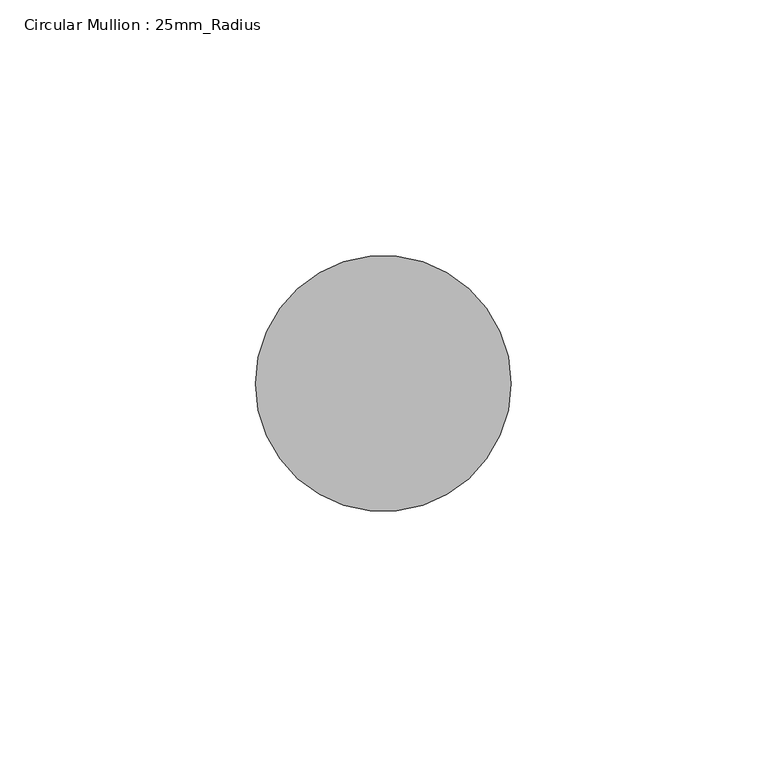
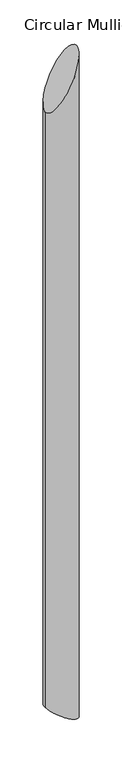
"""IFC4 building model written with IfcOpenShell, lengths in millimetres: member geometry, Circular Mullion : 25mm_Radius."""

from ifc_helpers import new_model, si_unit, frame, origin, place, context, project, spatial, ellipse_curve, source, transform, mapped, element, save
from ifc_brep_helpers import plane_surface, cylinder_surface, advanced_brep


def circular_mullion_25mm_radius_84070b58(model_context):
    return source(origin(), model_context, "Body", "AdvancedBrep", [
        advanced_brep(
        [(-50.0, 0.0, -94.9079731), (0.0, 0.0, 0.0), (0.0, 0.0, -1120.0), (-50.0, 0.0, -1094.3675147)],
        [
            (0, 1, ellipse_curve(frame((-25.0, 0.0, -47.4539865), z_axis=(0.8847320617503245, 0.0, -0.466099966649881), x_axis=(0.46609996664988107, 0.0, 0.8847320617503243)), 53.6365625, 25.0)),
            (1, 2),
            (2, 3, ellipse_curve(frame((-25.0, 0.0, -1107.1837573), z_axis=(0.45619629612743, 0.0, 0.8898791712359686), x_axis=(-0.8898791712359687, 0.0, 0.4561962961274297)), 28.0937017, 25.0)),
            (3, 0),
            (1, 0, ellipse_curve(frame((-25.0, 0.0, -47.4539865), z_axis=(0.8847320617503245, 0.0, -0.466099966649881), x_axis=(0.46609996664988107, 0.0, 0.8847320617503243)), 53.6365625, 25.0)),
            (3, 2, ellipse_curve(frame((-25.0, 0.0, -1107.1837573), z_axis=(0.45619629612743, 0.0, 0.8898791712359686), x_axis=(-0.8898791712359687, 0.0, 0.4561962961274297)), 28.0937017, 25.0)),
        ],
        [
            cylinder_surface(frame((-25.0, 0.0, 0.0), z_axis=(0.0, 0.0, 1.0), x_axis=(1.0, 0.0, 0.0)), 25.0),
            plane_surface(frame((0.0, -304.8, 0.0), z_axis=(-0.8847320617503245, 0.0, 0.466099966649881), x_axis=(-0.466099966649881, 0.0, -0.8847320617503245))),
            plane_surface(frame((0.0, -304.8, -1120.0), z_axis=(-0.45619629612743, 0.0, -0.8898791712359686), x_axis=(-0.8898791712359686, 0.0, 0.45619629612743))),
        ],
        [
            (0, [[1, 2, 3, 4]]),
            (0, [[5, -4, 6, -2]]),
            (1, [[-1, -5]]),
            (2, [[-6, -3]]),
        ],
    ),
    ])


if __name__ == "__main__":
    model = new_model("IFC4")
    model_context = context("Model", 3, world=origin())
    ifc_project = project(units=[si_unit("LENGTHUNIT", "METRE", prefix="MILLI")], contexts=[model_context])
    site = spatial("IfcSite", under=ifc_project)
    building = spatial("IfcBuilding", under=site)
    placement = place(None, origin())
    circular_mullion_25mm_radius_shape = circular_mullion_25mm_radius_84070b58(model_context)
    element("IfcMember", 1, ObjectType="Circular Mullion : 25mm_Radius", at=placement, inside=building, context=model_context, shape_type="MappedRepresentation", body=[
        mapped(circular_mullion_25mm_radius_shape, transform((0.0, 0.0, 0.0), x_axis=(1.0, 0.0, 0.0), y_axis=(0.0, 1.0, 0.0), z_axis=(0.0, 0.0, 1.0))),
    ])
    save(model, "model.ifc")
